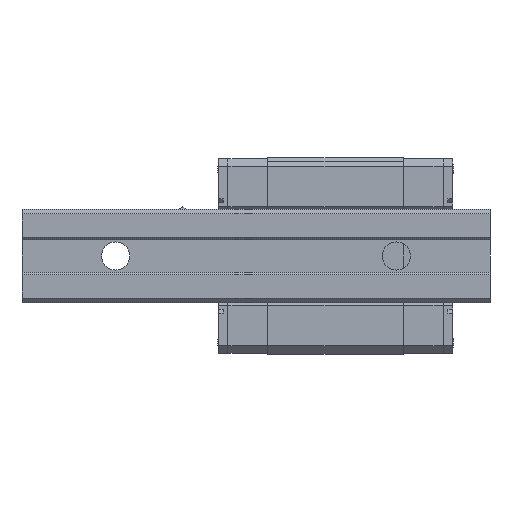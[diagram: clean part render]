
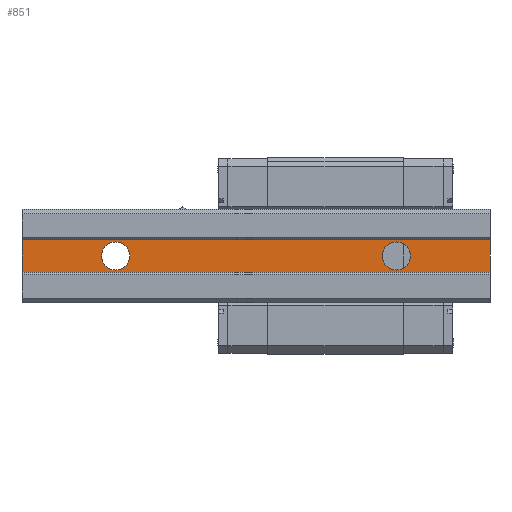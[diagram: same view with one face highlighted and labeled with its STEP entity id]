
A CAD part, front view. The second image highlights one B-rep face of the part: STEP entity #851.
In plain terms, the highlighted planar face has unit normal (0, -1, 0).
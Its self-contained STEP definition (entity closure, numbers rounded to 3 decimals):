
#851 = ADVANCED_FACE( '', ( #1934, #1935, #1936 ), #1937, .F. );
#1934 = FACE_BOUND( '', #3345, .T. );
#1935 = FACE_BOUND( '', #3346, .T. );
#1936 = FACE_OUTER_BOUND( '', #3347, .T. );
#1937 = PLANE( '', #3348 );
#3345 = EDGE_LOOP( '', ( #5372 ) );
#3346 = EDGE_LOOP( '', ( #5373 ) );
#3347 = EDGE_LOOP( '', ( #5374, #5375, #5376, #5377 ) );
#3348 = AXIS2_PLACEMENT_3D( '', #5378, #5379, #5380 );
#5372 = ORIENTED_EDGE( '', *, *, #8763, .F. );
#5373 = ORIENTED_EDGE( '', *, *, #8723, .F. );
#5374 = ORIENTED_EDGE( '', *, *, #9083, .T. );
#5375 = ORIENTED_EDGE( '', *, *, #9084, .F. );
#5376 = ORIENTED_EDGE( '', *, *, #9085, .F. );
#5377 = ORIENTED_EDGE( '', *, *, #9086, .T. );
#5378 = CARTESIAN_POINT( '', ( 50., 0.5, 3.5 ) );
#5379 = DIRECTION( '', ( 0., 1., 0. ) );
#5380 = DIRECTION( '', ( 0., 0., 1. ) );
#8723 = EDGE_CURVE( '', #10471, #10471, #10472, .F. );
#8763 = EDGE_CURVE( '', #10540, #10540, #10541, .F. );
#9083 = EDGE_CURVE( '', #11086, #11087, #11088, .T. );
#9084 = EDGE_CURVE( '', #11089, #11087, #11090, .T. );
#9085 = EDGE_CURVE( '', #11091, #11089, #11092, .T. );
#9086 = EDGE_CURVE( '', #11091, #11086, #11093, .T. );
#10471 = VERTEX_POINT( '', #13001 );
#10472 = CIRCLE( '', #13002, 3. );
#10540 = VERTEX_POINT( '', #13095 );
#10541 = CIRCLE( '', #13096, 3. );
#11086 = VERTEX_POINT( '', #13884 );
#11087 = VERTEX_POINT( '', #13885 );
#11088 = LINE( '', #13886, #13887 );
#11089 = VERTEX_POINT( '', #13888 );
#11090 = LINE( '', #13889, #13890 );
#11091 = VERTEX_POINT( '', #13891 );
#11092 = LINE( '', #13892, #13893 );
#11093 = LINE( '', #13894, #13895 );
#13001 = CARTESIAN_POINT( '', ( -30., 0.5, 3. ) );
#13002 = AXIS2_PLACEMENT_3D( '', #16178, #16179, #16180 );
#13095 = CARTESIAN_POINT( '', ( 30., 0.5, 3. ) );
#13096 = AXIS2_PLACEMENT_3D( '', #16221, #16222, #16223 );
#13884 = CARTESIAN_POINT( '', ( -50., 0.5, 3.5 ) );
#13885 = CARTESIAN_POINT( '', ( -50., 0.5, -3.5 ) );
#13886 = CARTESIAN_POINT( '', ( -50., 0.5, 3.5 ) );
#13887 = VECTOR( '', #16557, 1000. );
#13888 = CARTESIAN_POINT( '', ( 50., 0.5, -3.5 ) );
#13889 = CARTESIAN_POINT( '', ( 50., 0.5, -3.5 ) );
#13890 = VECTOR( '', #16558, 1000. );
#13891 = CARTESIAN_POINT( '', ( 50., 0.5, 3.5 ) );
#13892 = CARTESIAN_POINT( '', ( 50., 0.5, 3.5 ) );
#13893 = VECTOR( '', #16559, 1000. );
#13894 = CARTESIAN_POINT( '', ( 50., 0.5, 3.5 ) );
#13895 = VECTOR( '', #16560, 1000. );
#16178 = CARTESIAN_POINT( '', ( -30., 0.5, 0. ) );
#16179 = DIRECTION( '', ( 0., 1., 0. ) );
#16180 = DIRECTION( '', ( 0., 0., 1. ) );
#16221 = CARTESIAN_POINT( '', ( 30., 0.5, 0. ) );
#16222 = DIRECTION( '', ( 0., 1., 0. ) );
#16223 = DIRECTION( '', ( 0., 0., 1. ) );
#16557 = DIRECTION( '', ( 0., 0., -1. ) );
#16558 = DIRECTION( '', ( -1., 0., 0. ) );
#16559 = DIRECTION( '', ( 0., 0., -1. ) );
#16560 = DIRECTION( '', ( -1., 0., 0. ) );
